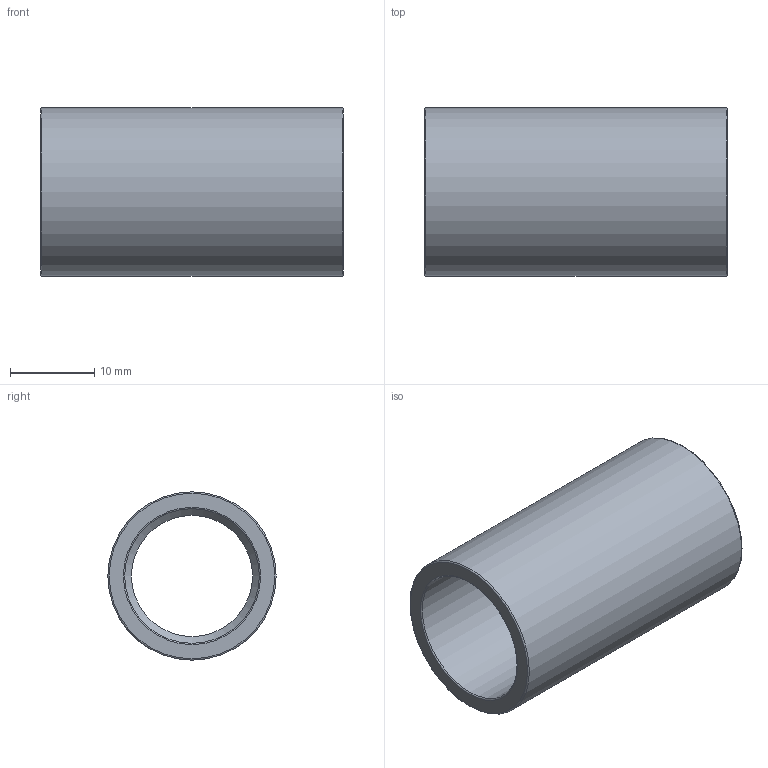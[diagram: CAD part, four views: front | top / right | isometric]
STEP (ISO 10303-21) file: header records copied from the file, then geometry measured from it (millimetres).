
FILE_DESCRIPTION(/* description */ ('PLASSON REDUCING SOCKET M.F.20(16)16 CEMENTED'),/* implementation_level */ '2;1');
FILE_NAME(/* name */ 'C:\Dropbox\KIMPROJECTS-Inventor\99-16-3568-Processing\PVC Catalog 2017\050200\050200020016.ipt.stp',/* time_stamp */ '2017-12-07T15:52:05+02:00',/* author */ ('KIM'),/* organization */ (''),/* preprocessor_version */ 'ST-DEVELOPER v15.6',/* originating_system */ 'Autodesk Inventor 2015',/* authorisation */ '');
FILE_SCHEMA (('AUTOMOTIVE_DESIGN { 1 0 10303 214 3 1 1 }'));
Length unit declared in the file: millimetre
Products named in the file (1): 050200020016
Bounding box: 36 x 20 x 20 mm (x, y, z)
Volume: 4360.9 mm3; surface area: 4298 mm2
Topology: 1 solids, 1 shells, 12 faces, 21 edges, 12 vertices
Faces by surface type: torus 4, cylinder 4, plane 3, cone 1
Full cylindrical faces by diameter (mm): 14.4 x1, 16 x2, 20 x1
Entity records: 272 total; most frequent: DIRECTION 50, CARTESIAN_POINT 37, AXIS2_PLACEMENT_3D 25, EDGE_LOOP 24, ORIENTED_EDGE 24, FACE_BOUND 12, FACE_OUTER_BOUND 12, CIRCLE 12
